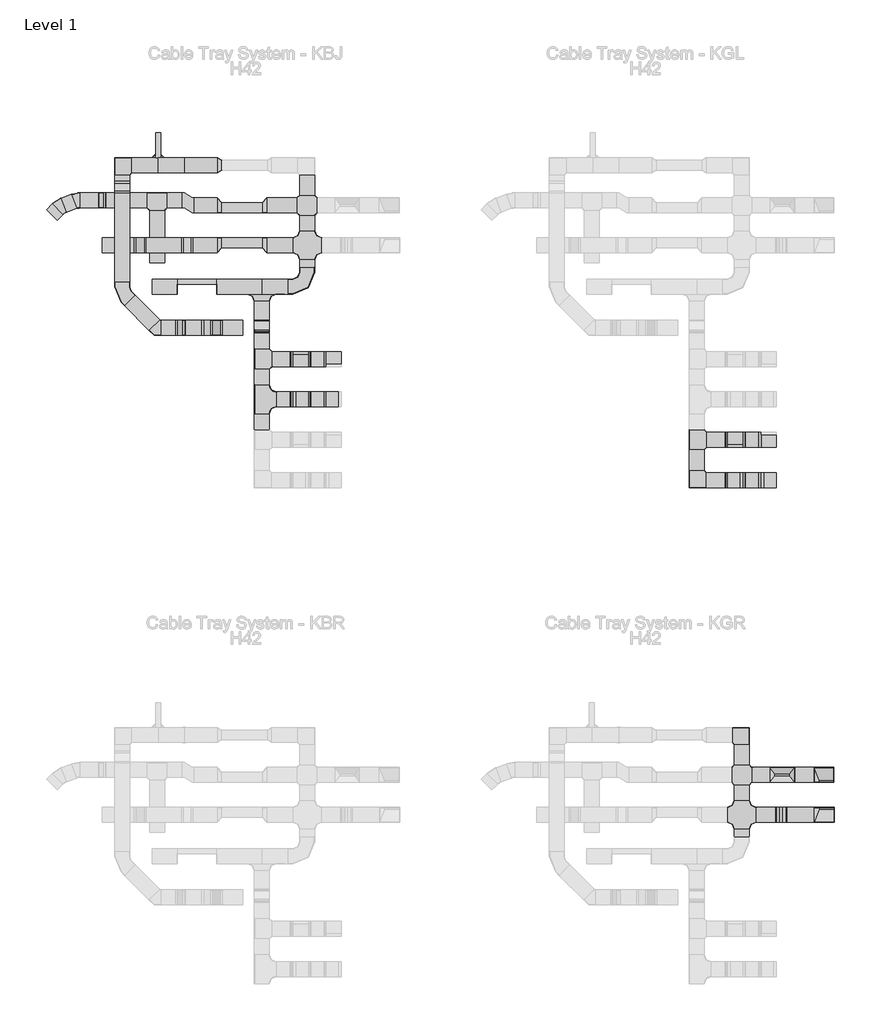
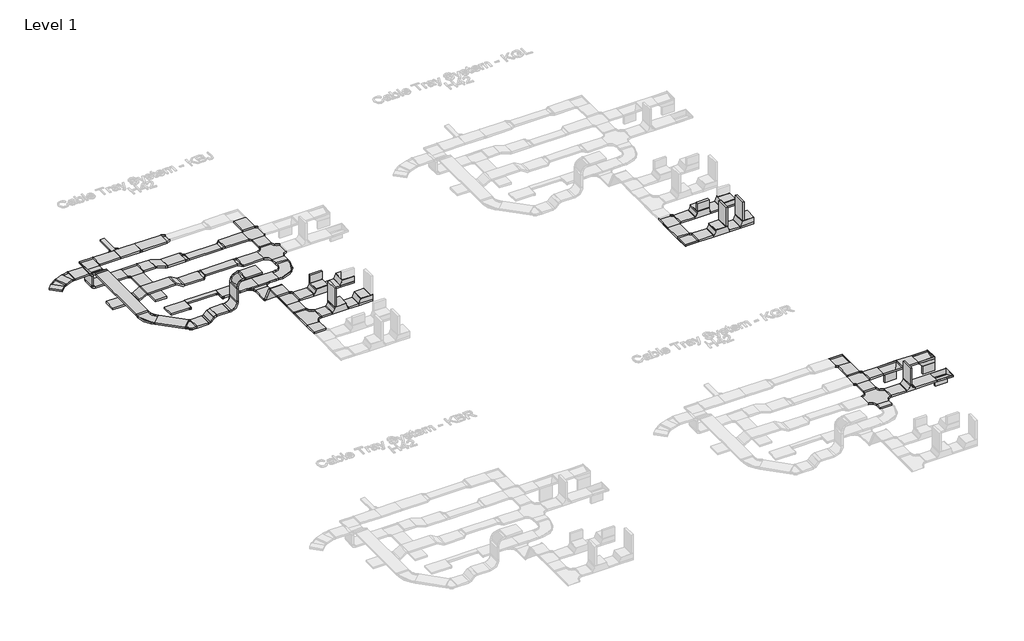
# One storey, part 6 of 32: 64 cable carrier segments, 51 cable carrier fittings.
"""IFC4 building model written with IfcOpenShell, lengths in millimetres."""

from ifc_helpers import new_model, si_unit, frame, origin, place, context, project, spatial, polyline, outline, extrude, transform, mapped, element, save
from components import cable_carrier_fitting_2f03b0e3, cable_carrier_fitting_e5c8e40d, cable_carrier_fitting_efa56db2, cable_carrier_fitting_2b67af39, cable_carrier_fitting_400b97e6, cable_carrier_fitting_736d034b, cable_carrier_fitting_94ef316f, cable_carrier_fitting_717dd42d, cable_carrier_fitting_b6ebce7b, cable_carrier_fitting_70c157f5, cable_carrier_fitting_f138ef00, cable_carrier_fitting_e93d4d17, cable_carrier_fitting_1724e2f5, cable_carrier_fitting_f62230c1, cable_carrier_fitting_ae8e9708, cable_carrier_fitting_2d1b2b1b, cable_carrier_fitting_6d558282, cable_carrier_fitting_b296faec, cable_carrier_fitting_47b1af77, cable_carrier_fitting_55953e98, cable_carrier_fitting_c1d9b0e5, cable_carrier_fitting_19ef2403, cable_carrier_fitting_0fee3a18, cable_carrier_fitting_93b13c26, cable_carrier_fitting_9011e538, cable_carrier_fitting_5d3ac796, cable_carrier_fitting_b8cc1d00, cable_carrier_fitting_0e05e12f, cable_carrier_fitting_aa4403b1, cable_carrier_fitting_df0feb0d, cable_carrier_fitting_3ff81d9b, cable_carrier_fitting_7d5806c9, cable_carrier_fitting_881c8fdb, cable_carrier_fitting_302010ec, cable_carrier_fitting_0ce080ce, rkj200_h42_828cf9d7, rkj200_h42_37d9c611

model = new_model("IFC4")

# Units and contexts
model_context = context("Model", 3, world=origin())
ifc_project = project(units=[si_unit("LENGTHUNIT", "METRE", prefix="MILLI")], contexts=[model_context])

# Site, building, storey
site = spatial("IfcSite", under=ifc_project)
building = spatial("IfcBuilding", under=site)
storey = spatial("IfcBuildingStorey", under=building, Name="Level 1", Elevation=0.0)

# Cable carrier fittings
placement = place(None, origin())
cable_carrier_fitting_shape = cable_carrier_fitting_2f03b0e3(model_context)
element("IfcCableCarrierFitting", 1, ObjectType="BAKS_Vertical tee symetrical : TRSNJ_H42", at=placement, inside=storey, context=model_context, shape_type="MappedRepresentation", body=[
    mapped(cable_carrier_fitting_shape, transform((-6858.1670538, 56380.8714214, 0.0), x_axis=(1.0, 0.0, 0.0), y_axis=(0.0, -1.0, 0.0), z_axis=(0.0, 0.0, -1.0))),
])
cable_carrier_fitting_2_shape = cable_carrier_fitting_e5c8e40d(model_context)
element("IfcCableCarrierFitting", 2, ObjectType="BAKS_SUB_Corner connector : LRJ_H42", at=placement, inside=storey, context=model_context, shape_type="MappedRepresentation", body=[
    mapped(cable_carrier_fitting_2_shape, transform((-19375.1670538, 69530.8714214, -21.0), x_axis=(-1.0, 0.0, 0.0), y_axis=(0.0, -1.0, 0.0), z_axis=(0.0, 0.0, 1.0))),
])
element("IfcCableCarrierFitting", 3, ObjectType="BAKS_SUB_Corner connector : LRJ_H42", at=placement, inside=storey, context=model_context, shape_type="MappedRepresentation", body=[
    mapped(cable_carrier_fitting_2_shape, transform((-19275.1670538, 69530.8714214, -21.0), x_axis=(0.0, 1.0, 0.0), y_axis=(-1.0, 0.0, 0.0), z_axis=(0.0, 0.0, 1.0))),
])
cable_carrier_fitting_3_shape = cable_carrier_fitting_efa56db2(model_context)
element("IfcCableCarrierFitting", 4, ObjectType="BAKS_Horizontal bypass : OPZNJ_H42", at=placement, inside=storey, context=model_context, shape_type="MappedRepresentation", body=[
    mapped(cable_carrier_fitting_3_shape, transform((-18722.1670538, 68580.8714214, 0.0), x_axis=(-1.0, 0.0, 0.0), y_axis=(0.0, 1.0, 0.0), z_axis=(0.0, 0.0, -1.0))),
])
cable_carrier_fitting_4_shape = cable_carrier_fitting_2b67af39(model_context)
element("IfcCableCarrierFitting", 5, ObjectType="BAKS_Vertical bypass : OPNNJ_H42", at=placement, inside=storey, context=model_context, shape_type="MappedRepresentation", body=[
    mapped(cable_carrier_fitting_4_shape, transform((-19686.6670538, 67780.8714214, 100.0), x_axis=(-1.0, 0.0, 0.0), y_axis=(0.0, -1.0, 0.0), z_axis=(0.0, 0.0, 1.0))),
])
cable_carrier_fitting_5_shape = cable_carrier_fitting_400b97e6(model_context)
element("IfcCableCarrierFitting", 6, ObjectType="BAKS_Vertical elbow left : KRLBJ_H42", at=placement, inside=storey, context=model_context, shape_type="MappedRepresentation", body=[
    mapped(cable_carrier_fitting_5_shape, transform((-6208.1670538, 57180.8714214, 0.0), x_axis=(1.0, 0.0, 0.0), y_axis=(0.0, 1.0, 0.0), z_axis=(0.0, 0.0, 1.0))),
])
cable_carrier_fitting_6_shape = cable_carrier_fitting_736d034b(model_context)
element("IfcCableCarrierFitting", 7, ObjectType="BAKS_Vertical tee lengthwise : TRBJ_H42", at=placement, inside=storey, context=model_context, shape_type="MappedRepresentation", body=[
    mapped(cable_carrier_fitting_6_shape, transform((-6838.1670538, 57180.8714214, 0.0), x_axis=(-1.0, 0.0, 0.0), y_axis=(0.0, -1.0, 0.0), z_axis=(0.0, 0.0, 1.0))),
])
cable_carrier_fitting_7_shape = cable_carrier_fitting_94ef316f(model_context)
element("IfcCableCarrierFitting", 8, ObjectType="BAKS_Reducer : RK(S/L/P)L_H42", at=placement, inside=storey, context=model_context, shape_type="MappedRepresentation", body=[
    mapped(cable_carrier_fitting_7_shape, transform((-18143.1670538, 69380.8714214, 0.0), x_axis=(1.0, 0.0, 0.0), y_axis=(0.0, 1.0, 0.0), z_axis=(0.0, 0.0, 1.0))),
])
cable_carrier_fitting_8_shape = cable_carrier_fitting_717dd42d(model_context)
element("IfcCableCarrierFitting", 9, ObjectType="BAKS_Horizontal bend : KKBL/KKMBL_H42", at=placement, inside=storey, context=model_context, shape_type="MappedRepresentation", body=[
    mapped(cable_carrier_fitting_8_shape, transform((-7643.1670538, 57980.8714214, 0.0), x_axis=(0.0, 1.0, 0.0), y_axis=(-1.0, 0.0, 0.0), z_axis=(0.0, 0.0, 1.0))),
])
element("IfcCableCarrierFitting", 10, ObjectType="BAKS_Horizontal bend : KKBL/KKMBL_H42", at=placement, inside=storey, context=model_context, shape_type="MappedRepresentation", body=[
    mapped(cable_carrier_fitting_8_shape, transform((-20043.1670538, 69380.8714214, 0.0), x_axis=(-1.0, 0.0, 0.0), y_axis=(0.0, -1.0, 0.0), z_axis=(0.0, 0.0, 1.0))),
])
element("IfcCableCarrierFitting", 11, ObjectType="BAKS_Horizontal bend : KKBL/KKMBL_H42", at=placement, inside=storey, context=model_context, shape_type="MappedRepresentation", body=[
    mapped(cable_carrier_fitting_8_shape, transform((-8546.1670538, 63082.0146558, 432.5277378), x_axis=(0.0, -1.0, 0.0), y_axis=(1.0, 0.0, 0.0), z_axis=(0.0, 0.0, 1.0))),
])
cable_carrier_fitting_9_shape = cable_carrier_fitting_b6ebce7b(model_context)
element("IfcCableCarrierFitting", 12, ObjectType="BAKS_Horizontal tee : TKL_H42", at=placement, inside=storey, context=model_context, shape_type="MappedRepresentation", body=[
    mapped(cable_carrier_fitting_9_shape, transform((-19343.6670538, 68680.8714214, 0.0), x_axis=(1.0, 0.0, 0.0), y_axis=(0.0, 1.0, 0.0), z_axis=(0.0, 0.0, 1.0))),
])
element("IfcCableCarrierFitting", 13, ObjectType="BAKS_Horizontal tee : TKL_H42", at=placement, inside=storey, context=model_context, shape_type="MappedRepresentation", body=[
    mapped(cable_carrier_fitting_9_shape, transform((-17246.1670538, 65503.8631068, 432.5277378), x_axis=(0.0, 1.0, 0.0), y_axis=(-1.0, 0.0, 0.0), z_axis=(0.0, 0.0, 1.0))),
])
element("IfcCableCarrierFitting", 14, ObjectType="BAKS_Horizontal tee : TKL_H42", at=placement, inside=storey, context=model_context, shape_type="MappedRepresentation", body=[
    mapped(cable_carrier_fitting_9_shape, transform((-8546.1670538, 63889.2974728, 432.5277378), x_axis=(0.0, 1.0, 0.0), y_axis=(-1.0, 0.0, 0.0), z_axis=(0.0, 0.0, 1.0))),
])
cable_carrier_fitting_10_shape = cable_carrier_fitting_70c157f5(model_context)
element("IfcCableCarrierFitting", 15, ObjectType="BAKS_Reducer : RK(S/L/P)L_H42", at=placement, inside=storey, context=model_context, shape_type="MappedRepresentation", body=[
    mapped(cable_carrier_fitting_10_shape, transform((-18143.1670538, 68580.8714214, 0.0), x_axis=(1.0, 0.0, 0.0), y_axis=(0.0, 1.0, 0.0), z_axis=(0.0, 0.0, 1.0))),
])
element("IfcCableCarrierFitting", 16, ObjectType="BAKS_Reducer : RK(S/L/P)L_H42", at=placement, inside=storey, context=model_context, shape_type="MappedRepresentation", body=[
    mapped(cable_carrier_fitting_10_shape, transform((-17143.1670538, 67780.8714214, 0.0), x_axis=(-1.0, 0.0, 0.0), y_axis=(0.0, -1.0, 0.0), z_axis=(0.0, 0.0, 1.0))),
])
cable_carrier_fitting_11_shape = cable_carrier_fitting_f138ef00(model_context)
element("IfcCableCarrierFitting", 17, ObjectType="BAKS_Reducer : RK(S/L/P)L_H42", at=placement, inside=storey, context=model_context, shape_type="MappedRepresentation", body=[
    mapped(cable_carrier_fitting_11_shape, transform((-17143.1670538, 68580.8714214, 0.0), x_axis=(-1.0, 0.0, 0.0), y_axis=(0.0, -1.0, 0.0), z_axis=(0.0, 0.0, 1.0))),
])
element("IfcCableCarrierFitting", 18, ObjectType="BAKS_Reducer : RK(S/L/P)L_H42", at=placement, inside=storey, context=model_context, shape_type="MappedRepresentation", body=[
    mapped(cable_carrier_fitting_11_shape, transform((-18143.1670538, 67780.8714214, 0.0), x_axis=(1.0, 0.0, 0.0), y_axis=(0.0, 1.0, 0.0), z_axis=(0.0, 0.0, 1.0))),
])
cable_carrier_fitting_12_shape = cable_carrier_fitting_e93d4d17(model_context)
element("IfcCableCarrierFitting", 19, ObjectType="BAKS_Plate connector : LPMU_H42", at=placement, inside=storey, context=model_context, shape_type="MappedRepresentation", body=[
    mapped(cable_carrier_fitting_12_shape, transform((-18803.1670538, 69380.8714214, 0.0), x_axis=(1.0, 0.0, 0.0), y_axis=(0.0, 1.0, 0.0), z_axis=(0.0, 0.0, 1.0))),
])
cable_carrier_fitting_13_shape = cable_carrier_fitting_1724e2f5(model_context)
element("IfcCableCarrierFitting", 20, ObjectType="BAKS_Vertical bypass : OPNNJ_H42", at=placement, inside=storey, context=model_context, shape_type="MappedRepresentation", body=[
    mapped(cable_carrier_fitting_13_shape, transform((-18743.6670538, 67780.8714214, 0.0), x_axis=(-1.0, 0.0, 0.0), y_axis=(0.0, -1.0, 0.0), z_axis=(0.0, 0.0, 1.0))),
])
element("IfcCableCarrierFitting", 21, ObjectType="BAKS_Vertical bypass : OPNNJ_H42", at=placement, inside=storey, context=model_context, shape_type="MappedRepresentation", body=[
    mapped(cable_carrier_fitting_13_shape, transform((-20043.1670538, 68939.3714214, 0.0), x_axis=(0.0, -1.0, 0.0), y_axis=(1.0, 0.0, 0.0), z_axis=(0.0, 0.0, 1.0))),
])
cable_carrier_fitting_14_shape = cable_carrier_fitting_f62230c1(model_context)
element("IfcCableCarrierFitting", 22, ObjectType="BAKS_Vertical bend LU : LUNJ/LUMNJ_H42", at=placement, inside=storey, context=model_context, shape_type="MappedRepresentation", body=[
    mapped(cable_carrier_fitting_14_shape, transform((-20443.6670538, 68680.8714214, 0.0), x_axis=(-1.0, 0.0, 0.0), y_axis=(0.0, 0.0, 1.0), z_axis=(0.0, 1.0, 0.0))),
])
element("IfcCableCarrierFitting", 23, ObjectType="BAKS_Vertical bend LU : LUNJ/LUMNJ_H42", at=placement, inside=storey, context=model_context, shape_type="MappedRepresentation", body=[
    mapped(cable_carrier_fitting_14_shape, transform((-20443.6670538, 68680.8714214, 400.0), x_axis=(0.0, 0.0, 1.0), y_axis=(-1.0, 0.0, 0.0), z_axis=(0.0, -1.0, 0.0))),
])
cable_carrier_fitting_15_shape = cable_carrier_fitting_ae8e9708(model_context)
element("IfcCableCarrierFitting", 24, ObjectType="BAKS_Horizontal bend : KKBL/KKMBL_H42", at=placement, inside=storey, context=model_context, shape_type="MappedRepresentation", body=[
    mapped(cable_carrier_fitting_15_shape, transform((-19343.6670538, 66131.3714214, 100.0), x_axis=(0.7071067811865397, -0.7071067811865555, 0.0), y_axis=(0.7071067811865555, 0.7071067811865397, 0.0), z_axis=(0.0, 0.0, 1.0))),
])
cable_carrier_fitting_16_shape = cable_carrier_fitting_2d1b2b1b(model_context)
element("IfcCableCarrierFitting", 25, ObjectType="BAKS_Vertical bend LU : LUNJ/LUMNJ_H42", at=placement, inside=storey, context=model_context, shape_type="MappedRepresentation", body=[
    mapped(cable_carrier_fitting_16_shape, transform((-18943.6670538, 66131.3714214, 100.0), x_axis=(1.0, 0.0, 0.0), y_axis=(0.0, 0.0, 1.0), z_axis=(0.0, -1.0, 0.0))),
])
element("IfcCableCarrierFitting", 26, ObjectType="BAKS_Vertical bend LU : LUNJ/LUMNJ_H42", at=placement, inside=storey, context=model_context, shape_type="MappedRepresentation", body=[
    mapped(cable_carrier_fitting_16_shape, transform((-18806.2659001, 66131.3714214, 237.4011537), x_axis=(0.7071067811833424, 0.0, 0.7071067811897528), y_axis=(0.7071067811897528, 0.0, -0.7071067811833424), z_axis=(0.0, 1.0, 0.0))),
])
cable_carrier_fitting_17_shape = cable_carrier_fitting_6d558282(model_context)
element("IfcCableCarrierFitting", 27, ObjectType="BAKS_Vertical bend adjustable : LLL/LLJ_H42", at=placement, inside=storey, context=model_context, shape_type="MappedRepresentation", body=[
    mapped(cable_carrier_fitting_17_shape, transform((-18246.2659001, 66131.3714214, 237.4011537), x_axis=(1.0, 0.0, 0.0), y_axis=(0.0, 0.0, 1.0), z_axis=(0.0, -1.0, 0.0))),
])
element("IfcCableCarrierFitting", 28, ObjectType="BAKS_Vertical bend adjustable : LLL/LLJ_H42", at=placement, inside=storey, context=model_context, shape_type="MappedRepresentation", body=[
    mapped(cable_carrier_fitting_17_shape, transform((-18246.2659001, 66131.3714214, 977.4011537), x_axis=(0.0, 0.0, 1.0), y_axis=(1.0, 0.0, 0.0), z_axis=(0.0, 1.0, 0.0))),
])
cable_carrier_fitting_18_shape = cable_carrier_fitting_b296faec(model_context)
element("IfcCableCarrierFitting", 29, ObjectType="BAKS_Horizontal addon tee : TKDJ_H42", at=placement, inside=storey, context=model_context, shape_type="MappedRepresentation", body=[
    mapped(cable_carrier_fitting_18_shape, transform((-17246.1670538, 66955.8714214, 0.0), x_axis=(1.0, 0.0, 0.0), y_axis=(0.0, 1.0, 0.0), z_axis=(0.0, 0.0, 1.0))),
])
cable_carrier_fitting_19_shape = cable_carrier_fitting_47b1af77(model_context)
element("IfcCableCarrierFitting", 30, ObjectType="BAKS_Articulated_connector : LGJ_H42", at=placement, inside=storey, context=model_context, shape_type="MappedRepresentation", body=[
    mapped(cable_carrier_fitting_19_shape, transform((-17246.1670538, 66258.7056523, 0.0), x_axis=(0.0, -1.0, 0.0), y_axis=(0.0, 0.0, 1.0), z_axis=(-1.0, 0.0, 0.0))),
])
element("IfcCableCarrierFitting", 31, ObjectType="BAKS_Articulated_connector : LGJ_H42", at=placement, inside=storey, context=model_context, shape_type="MappedRepresentation", body=[
    mapped(cable_carrier_fitting_19_shape, transform((-17246.1670538, 66057.0146558, 432.5277378), x_axis=(0.0, -0.42261826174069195, 0.9063077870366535), y_axis=(0.0, -0.9063077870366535, -0.42261826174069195), z_axis=(1.0, 0.0, 0.0))),
])
cable_carrier_fitting_20_shape = cable_carrier_fitting_55953e98(model_context)
element("IfcCableCarrierFitting", 32, ObjectType="BAKS_Horizontal bend radius : KKPJ/KKMPJ_H42", at=placement, inside=storey, context=model_context, shape_type="MappedRepresentation", body=[
    mapped(cable_carrier_fitting_20_shape, transform((-20043.1670538, 66830.8714214, 100.0), x_axis=(0.0, -1.0, 0.0), y_axis=(1.0, 0.0, 0.0), z_axis=(0.0, 0.0, 1.0))),
])
cable_carrier_fitting_21_shape = cable_carrier_fitting_c1d9b0e5(model_context)
element("IfcCableCarrierFitting", 33, ObjectType="BAKS_Horizontal bend radius : KKPJ/KKMPJ_H42", at=placement, inside=storey, context=model_context, shape_type="MappedRepresentation", body=[
    mapped(cable_carrier_fitting_21_shape, transform((-16343.1670538, 66955.8714214, 0.0), x_axis=(1.0, 0.0, 0.0), y_axis=(0.0, 1.0, 0.0), z_axis=(0.0, 0.0, 1.0))),
])
cable_carrier_fitting_22_shape = cable_carrier_fitting_19ef2403(model_context)
element("IfcCableCarrierFitting", 34, ObjectType="BAKS_Adjustable bend : KKRPJ_H42", at=placement, inside=storey, context=model_context, shape_type="MappedRepresentation", body=[
    mapped(cable_carrier_fitting_22_shape, transform((-21281.9563973, 68557.7441698, 400.0), x_axis=(-0.9396926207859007, -0.34202014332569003, 0.0), y_axis=(0.34202014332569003, -0.9396926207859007, 0.0), z_axis=(0.0, 0.0, 1.0))),
])
cable_carrier_fitting_23_shape = cable_carrier_fitting_0fee3a18(model_context)
element("IfcCableCarrierFitting", 35, ObjectType="BAKS_Adjustable bend : KKRPJ_H42", at=placement, inside=storey, context=model_context, shape_type="MappedRepresentation", body=[
    mapped(cable_carrier_fitting_23_shape, transform((-20943.6670538, 68680.8714214, 400.0), x_axis=(-1.0, 0.0, 0.0), y_axis=(0.0, -1.0, 0.0), z_axis=(0.0, 0.0, 1.0))),
])
cable_carrier_fitting_24_shape = cable_carrier_fitting_93b13c26(model_context)
element("IfcCableCarrierFitting", 36, ObjectType="BAKS_Horizontal tee radius : TKPJ_H42", at=placement, inside=storey, context=model_context, shape_type="MappedRepresentation", body=[
    mapped(cable_carrier_fitting_24_shape, transform((-17246.1670538, 64696.5802898, 432.5277378), x_axis=(0.0, 1.0, 0.0), y_axis=(-1.0, 0.0, 0.0), z_axis=(0.0, 0.0, 1.0))),
])
cable_carrier_fitting_25_shape = cable_carrier_fitting_9011e538(model_context)
element("IfcCableCarrierFitting", 37, ObjectType="BAKS_Horizontal cross over : CZKL_H42", at=placement, inside=storey, context=model_context, shape_type="MappedRepresentation", body=[
    mapped(cable_carrier_fitting_25_shape, transform((-7643.1670538, 57180.8714214, 0.0), x_axis=(0.0, -1.0, 0.0), y_axis=(1.0, 0.0, 0.0), z_axis=(0.0, 0.0, 1.0))),
])
element("IfcCableCarrierFitting", 38, ObjectType="BAKS_Horizontal cross over : CZKL_H42", at=placement, inside=storey, context=model_context, shape_type="MappedRepresentation", body=[
    mapped(cable_carrier_fitting_25_shape, transform((-16343.1670538, 68580.8714214, 0.0), x_axis=(0.0, -1.0, 0.0), y_axis=(1.0, 0.0, 0.0), z_axis=(0.0, 0.0, 1.0))),
])
cable_carrier_fitting_26_shape = cable_carrier_fitting_5d3ac796(model_context)
element("IfcCableCarrierFitting", 39, ObjectType="BAKS_Horizontal cross over radius : CZKPJ_H42", at=placement, inside=storey, context=model_context, shape_type="MappedRepresentation", body=[
    mapped(cable_carrier_fitting_26_shape, transform((-7643.1670538, 56380.8714214, 0.0), x_axis=(0.0, -1.0, 0.0), y_axis=(1.0, 0.0, 0.0), z_axis=(0.0, 0.0, 1.0))),
])
element("IfcCableCarrierFitting", 40, ObjectType="BAKS_Horizontal cross over radius : CZKPJ_H42", at=placement, inside=storey, context=model_context, shape_type="MappedRepresentation", body=[
    mapped(cable_carrier_fitting_26_shape, transform((-16343.1670538, 67780.8714214, 0.0), x_axis=(0.0, -1.0, 0.0), y_axis=(1.0, 0.0, 0.0), z_axis=(0.0, 0.0, 1.0))),
])
cable_carrier_fitting_27_shape = cable_carrier_fitting_b8cc1d00(model_context)
element("IfcCableCarrierFitting", 41, ObjectType="BAKS_Vertical elbow right : KRPJ_H42", at=placement, inside=storey, context=model_context, shape_type="MappedRepresentation", body=[
    mapped(cable_carrier_fitting_27_shape, transform((-6202.1670538, 56380.8714214, 0.0), x_axis=(1.0, 0.0, 0.0), y_axis=(0.0, 1.0, 0.0), z_axis=(0.0, 0.0, 1.0))),
])
cable_carrier_fitting_28_shape = cable_carrier_fitting_0e05e12f(model_context)
element("IfcCableCarrierFitting", 42, ObjectType="BAKS_Universal elbow : KRUMJ_H42", at=placement, inside=storey, context=model_context, shape_type="MappedRepresentation", body=[
    mapped(cable_carrier_fitting_28_shape, transform((-16006.1670538, 65503.8631068, 432.5277378), x_axis=(1.0, 0.0, 0.0), y_axis=(0.0, 1.0, 0.0), z_axis=(0.0, 0.0, 1.0))),
])
cable_carrier_fitting_29_shape = cable_carrier_fitting_aa4403b1(model_context)
element("IfcCableCarrierFitting", 43, ObjectType="BAKS_Universal elbow : KRUMJ_H42", at=placement, inside=storey, context=model_context, shape_type="MappedRepresentation", body=[
    mapped(cable_carrier_fitting_29_shape, transform((-7306.1670538, 63889.2974728, 432.5277378), x_axis=(1.0, 0.0, 0.0), y_axis=(0.0, 1.0, 0.0), z_axis=(0.0, 0.0, 1.0))),
])
cable_carrier_fitting_30_shape = cable_carrier_fitting_df0feb0d(model_context)
element("IfcCableCarrierFitting", 44, ObjectType="BAKS_Universal elbow : KRUMJ_H42", at=placement, inside=storey, context=model_context, shape_type="MappedRepresentation", body=[
    mapped(cable_carrier_fitting_30_shape, transform((-7306.1670538, 63082.0146558, 432.5277378), x_axis=(1.0, 0.0, 0.0), y_axis=(0.0, 1.0, 0.0), z_axis=(0.0, 0.0, 1.0))),
])
cable_carrier_fitting_31_shape = cable_carrier_fitting_3ff81d9b(model_context)
element("IfcCableCarrierFitting", 45, ObjectType="BAKS_Universal tee : TRUNJ_H42", at=placement, inside=storey, context=model_context, shape_type="MappedRepresentation", body=[
    mapped(cable_carrier_fitting_31_shape, transform((-16473.5199976, 65503.8631068, 432.5277378), x_axis=(-1.0, 0.0, 0.0), y_axis=(0.0, -1.0, 0.0), z_axis=(0.0, 0.0, 1.0))),
])
cable_carrier_fitting_32_shape = cable_carrier_fitting_7d5806c9(model_context)
element("IfcCableCarrierFitting", 46, ObjectType="BAKS_Universal tee : TRUNJ_H42", at=placement, inside=storey, context=model_context, shape_type="MappedRepresentation", body=[
    mapped(cable_carrier_fitting_32_shape, transform((-7773.5199976, 63889.2974728, 432.5277378), x_axis=(-1.0, 0.0, 0.0), y_axis=(0.0, -1.0, 0.0), z_axis=(0.0, 0.0, 1.0))),
])
cable_carrier_fitting_33_shape = cable_carrier_fitting_881c8fdb(model_context)
element("IfcCableCarrierFitting", 47, ObjectType="BAKS_Universal elbow : KRUMJ_H42", at=placement, inside=storey, context=model_context, shape_type="MappedRepresentation", body=[
    mapped(cable_carrier_fitting_33_shape, transform((-16006.1670538, 64696.5802898, 432.5277378), x_axis=(1.0, 0.0, 0.0), y_axis=(0.0, 1.0, 0.0), z_axis=(0.0, 0.0, 1.0))),
])
cable_carrier_fitting_34_shape = cable_carrier_fitting_302010ec(model_context)
element("IfcCableCarrierFitting", 48, ObjectType="BAKS_Universal tee : TRUNJ_H42", at=placement, inside=storey, context=model_context, shape_type="MappedRepresentation", body=[
    mapped(cable_carrier_fitting_34_shape, transform((-16473.5199976, 64696.5802898, 432.5277378), x_axis=(-1.0, 0.0, 0.0), y_axis=(0.0, -1.0, 0.0), z_axis=(0.0, 0.0, 1.0))),
])
cable_carrier_fitting_35_shape = cable_carrier_fitting_0ce080ce(model_context)
element("IfcCableCarrierFitting", 49, ObjectType="BAKS_Universal tee : TRUNJ_H42", at=placement, inside=storey, context=model_context, shape_type="MappedRepresentation", body=[
    mapped(cable_carrier_fitting_35_shape, transform((-7773.5199976, 63082.0146558, 432.5277378), x_axis=(-1.0, 0.0, 0.0), y_axis=(0.0, -1.0, 0.0), z_axis=(0.0, 0.0, 1.0))),
])
rkj200_h42_shape = rkj200_h42_828cf9d7(model_context)
element("IfcCableCarrierFitting", 50, ObjectType="BAKS_Angle reducer : RKJ200_H42", at=placement, inside=storey, context=model_context, shape_type="MappedRepresentation", body=[
    mapped(rkj200_h42_shape, transform((-18153.1670538, 66955.8714214, 0.0), x_axis=(-1.0, 0.0, 0.0), y_axis=(0.0, -1.0, 0.0), z_axis=(0.0, 0.0, 1.0))),
])
rkj200_h42_2_shape = rkj200_h42_37d9c611(model_context)
element("IfcCableCarrierFitting", 51, ObjectType="BAKS_Angle reducer : RKJ200_H42", at=placement, inside=storey, context=model_context, shape_type="MappedRepresentation", body=[
    mapped(rkj200_h42_2_shape, transform((-18943.1670538, 66955.8714214, 0.0), x_axis=(1.0, 0.0, 0.0), y_axis=(0.0, 1.0, 0.0), z_axis=(0.0, 0.0, 1.0))),
])

# Cable carrier segments
element("IfcCableCarrierSegment", 52, ObjectType="BAKS - Cable tray H42 (KGR)", at=placement, inside=storey, context=model_context, shape_type="SweptSolid", body=[
    extrude(outline(polyline([(-7793.1670538, 57784.8714214), (-7493.1670538, 57784.8714214), (-7493.1670538, 57385.8714214), (-7793.1670538, 57385.8714214), (-7793.1670538, 57784.8714214)])), frame((0.0, 0.0, -21.0), z_axis=(0.0, 0.0, 1.0), x_axis=(1.0, 0.0, 0.0)), (0.0, 0.0, 1.0), 42.0),
])
element("IfcCableCarrierSegment", 53, ObjectType="BAKS - Cable tray H42 (KGR)", at=placement, inside=storey, context=model_context, shape_type="SweptSolid", body=[
    extrude(outline(polyline([(-7793.1670538, 56975.8714214), (-7493.1670538, 56975.8714214), (-7493.1670538, 56671.8714214), (-7793.1670538, 56671.8714214), (-7793.1670538, 56975.8714214)])), frame((0.0, 0.0, -21.0), z_axis=(0.0, 0.0, 1.0), x_axis=(1.0, 0.0, 0.0)), (0.0, 0.0, 1.0), 42.0),
])
element("IfcCableCarrierSegment", 54, ObjectType="BAKS - Cable tray H42 (KGR)", at=placement, inside=storey, context=model_context, shape_type="SweptSolid", body=[
    extrude(outline(polyline([(-7493.1670538, 55945.8714214), (-7793.1670538, 55945.8714214), (-7793.1670538, 56089.8714214), (-7493.1670538, 56089.8714214), (-7493.1670538, 55945.8714214)])), frame((0.0, 0.0, -21.0), z_axis=(0.0, 0.0, 1.0), x_axis=(1.0, 0.0, 0.0)), (0.0, 0.0, 1.0), 42.0),
])
element("IfcCableCarrierSegment", 55, ObjectType="BAKS - Cable tray H42 (KGR)", at=placement, inside=storey, context=model_context, shape_type="SweptSolid", body=[
    extrude(outline(polyline([(-7438.1670538, 57030.8714214), (-7438.1670538, 57330.8714214), (-7088.1670538, 57330.8714214), (-7088.1670538, 57030.8714214), (-7438.1670538, 57030.8714214)])), frame((0.0, 0.0, -21.0), z_axis=(0.0, 0.0, 1.0), x_axis=(1.0, 0.0, 0.0)), (0.0, 0.0, 1.0), 42.0),
])
element("IfcCableCarrierSegment", 56, ObjectType="BAKS - Cable tray H42 (KGR)", at=placement, inside=storey, context=model_context, shape_type="SweptSolid", body=[
    extrude(outline(polyline([(-7352.1670538, 56230.8714214), (-7352.1670538, 56530.8714214), (-6974.1670538, 56530.8714214), (-6974.1670538, 56230.8714214), (-7352.1670538, 56230.8714214)])), frame((0.0, 0.0, -21.0), z_axis=(0.0, 0.0, 1.0), x_axis=(1.0, 0.0, 0.0)), (0.0, 0.0, 1.0), 42.0),
])
element("IfcCableCarrierSegment", 57, ObjectType="BAKS - Cable tray H42 (KGR)", at=placement, inside=storey, context=model_context, shape_type="SweptSolid", body=[
    extrude(outline(polyline([(-6742.1670538, 56230.8714214), (-6742.1670538, 56530.8714214), (-6202.1670538, 56530.8714214), (-6202.1670538, 56230.8714214), (-6742.1670538, 56230.8714214)])), frame((0.0, 0.0, -21.0), z_axis=(0.0, 0.0, 1.0), x_axis=(1.0, 0.0, 0.0)), (0.0, 0.0, 1.0), 42.0),
])
element("IfcCableCarrierSegment", 58, ObjectType="BAKS - Cable tray H42 (KGR)", at=placement, inside=storey, context=model_context, shape_type="SweptSolid", body=[
    extrude(outline(polyline([(-6837.1670538, 56230.8714214), (-6879.1670538, 56230.8714214), (-6879.1670538, 56530.8714214), (-6837.1670538, 56530.8714214), (-6837.1670538, 56230.8714214)])), frame((0.0, 0.0, 136.0), z_axis=(0.0, 0.0, 1.0), x_axis=(1.0, 0.0, 0.0)), (0.0, 0.0, 1.0), 449.0),
])
element("IfcCableCarrierSegment", 59, ObjectType="BAKS - Cable tray H42 (KGR)", at=placement, inside=storey, context=model_context, shape_type="SweptSolid", body=[
    extrude(outline(polyline([(-6588.1670538, 57030.8714214), (-6588.1670538, 57330.8714214), (-6208.1670538, 57330.8714214), (-6208.1670538, 57030.8714214), (-6588.1670538, 57030.8714214)])), frame((0.0, 0.0, -21.0), z_axis=(0.0, 0.0, 1.0), x_axis=(1.0, 0.0, 0.0)), (0.0, 0.0, 1.0), 42.0),
])
element("IfcCableCarrierSegment", 60, ObjectType="BAKS - Cable tray H42 (KBJ)", at=placement, inside=storey, context=model_context, shape_type="SweptSolid", body=[
    extrude(outline(polyline([(-18802.1670538, 69230.8714214), (-18802.1670538, 69530.8714214), (-18143.1670538, 69530.8714214), (-18143.1670538, 69230.8714214), (-18802.1670538, 69230.8714214)])), frame((0.0, 0.0, -21.0), z_axis=(0.0, 0.0, 1.0), x_axis=(1.0, 0.0, 0.0)), (0.0, 0.0, 1.0), 42.0),
])
element("IfcCableCarrierSegment", 61, ObjectType="BAKS - Cable tray H42 (KBJ)", at=placement, inside=storey, context=model_context, shape_type="SweptSolid", body=[
    extrude(outline(polyline([(-16493.1670538, 69184.8714214), (-16193.1670538, 69184.8714214), (-16193.1670538, 68785.8714214), (-16493.1670538, 68785.8714214), (-16493.1670538, 69184.8714214)])), frame((0.0, 0.0, -21.0), z_axis=(0.0, 0.0, 1.0), x_axis=(1.0, 0.0, 0.0)), (0.0, 0.0, 1.0), 42.0),
])
element("IfcCableCarrierSegment", 62, ObjectType="BAKS - Cable tray H42 (KBJ)", at=placement, inside=storey, context=model_context, shape_type="SweptSolid", body=[
    extrude(outline(polyline([(-16493.1670538, 68375.8714214), (-16193.1670538, 68375.8714214), (-16193.1670538, 68071.8714214), (-16493.1670538, 68071.8714214), (-16493.1670538, 68375.8714214)])), frame((0.0, 0.0, -21.0), z_axis=(0.0, 0.0, 1.0), x_axis=(1.0, 0.0, 0.0)), (0.0, 0.0, 1.0), 42.0),
])
element("IfcCableCarrierSegment", 63, ObjectType="BAKS - Cable tray H42 (KBJ)", at=placement, inside=storey, context=model_context, shape_type="SweptSolid", body=[
    extrude(outline(polyline([(-17238.1670538, 68630.8714214), (-17238.1670538, 68430.8714214), (-18048.1670538, 68430.8714214), (-18048.1670538, 68630.8714214), (-17238.1670538, 68630.8714214)])), frame((0.0, 0.0, -21.0), z_axis=(0.0, 0.0, 1.0), x_axis=(1.0, 0.0, 0.0)), (0.0, 0.0, 1.0), 42.0),
])
element("IfcCableCarrierSegment", 64, ObjectType="BAKS - Cable tray H42 (KBJ)", at=placement, inside=storey, context=model_context, shape_type="SweptSolid", body=[
    extrude(outline(polyline([(-18600.6670538, 68430.8714214), (-18600.6670538, 68730.8714214), (-18143.1670538, 68730.8714214), (-18143.1670538, 68430.8714214), (-18600.6670538, 68430.8714214)])), frame((0.0, 0.0, -21.0), z_axis=(0.0, 0.0, 1.0), x_axis=(1.0, 0.0, 0.0)), (0.0, 0.0, 1.0), 42.0),
])
element("IfcCableCarrierSegment", 65, ObjectType="BAKS - Cable tray H42 (KBJ)", at=placement, inside=storey, context=model_context, shape_type="SweptSolid", body=[
    extrude(outline(polyline([(-16548.1670538, 68730.8714214), (-16548.1670538, 68430.8714214), (-17143.1670538, 68430.8714214), (-17143.1670538, 68730.8714214), (-16548.1670538, 68730.8714214)])), frame((0.0, 0.0, -21.0), z_axis=(0.0, 0.0, 1.0), x_axis=(1.0, 0.0, 0.0)), (0.0, 0.0, 1.0), 42.0),
])
element("IfcCableCarrierSegment", 66, ObjectType="BAKS - Cable tray H42 (KBJ)", at=placement, inside=storey, context=model_context, shape_type="SweptSolid", body=[
    extrude(outline(polyline([(-17238.1670538, 67930.8714214), (-17238.1670538, 67730.8714214), (-18048.1670538, 67730.8714214), (-18048.1670538, 67930.8714214), (-17238.1670538, 67930.8714214)])), frame((0.0, 0.0, -21.0), z_axis=(0.0, 0.0, 1.0), x_axis=(1.0, 0.0, 0.0)), (0.0, 0.0, 1.0), 42.0),
])
element("IfcCableCarrierSegment", 67, ObjectType="BAKS - Cable tray H42 (KBJ)", at=placement, inside=storey, context=model_context, shape_type="SweptSolid", body=[
    extrude(outline(polyline([(-18622.1670538, 67630.8714214), (-18622.1670538, 67930.8714214), (-18143.1670538, 67930.8714214), (-18143.1670538, 67630.8714214), (-18622.1670538, 67630.8714214)])), frame((0.0, 0.0, -21.0), z_axis=(0.0, 0.0, 1.0), x_axis=(1.0, 0.0, 0.0)), (0.0, 0.0, 1.0), 42.0),
])
element("IfcCableCarrierSegment", 68, ObjectType="BAKS - Cable tray H42 (KBJ)", at=placement, inside=storey, context=model_context, shape_type="SweptSolid", body=[
    extrude(outline(polyline([(-16634.1670538, 67930.8714214), (-16634.1670538, 67630.8714214), (-17143.1670538, 67630.8714214), (-17143.1670538, 67930.8714214), (-16634.1670538, 67930.8714214)])), frame((0.0, 0.0, -21.0), z_axis=(0.0, 0.0, 1.0), x_axis=(1.0, 0.0, 0.0)), (0.0, 0.0, 1.0), 42.0),
])
element("IfcCableCarrierSegment", 69, ObjectType="BAKS - Cable tray H42 (KBJ)", at=placement, inside=storey, context=model_context, shape_type="SweptSolid", body=[
    extrude(outline(polyline([(-19548.6670538, 68830.8714214), (-19548.6670538, 68530.8714214), (-20367.6670538, 68530.8714214), (-20367.6670538, 68830.8714214), (-19548.6670538, 68830.8714214)])), frame((0.0, 0.0, -21.0), z_axis=(0.0, 0.0, 1.0), x_axis=(1.0, 0.0, 0.0)), (0.0, 0.0, 1.0), 42.0),
])
element("IfcCableCarrierSegment", 70, ObjectType="BAKS - Cable tray H42 (KBJ)", at=placement, inside=storey, context=model_context, shape_type="SweptSolid", body=[
    extrude(outline(polyline([(-18865.1670538, 67930.8714214), (-18865.1670538, 67630.8714214), (-19565.1670538, 67630.8714214), (-19565.1670538, 67930.8714214), (-18865.1670538, 67930.8714214)])), frame((0.0, 0.0, 79.0), z_axis=(0.0, 0.0, 1.0), x_axis=(1.0, 0.0, 0.0)), (0.0, 0.0, 1.0), 42.0),
])
element("IfcCableCarrierSegment", 71, ObjectType="BAKS - Cable tray H42 (KBJ)", at=placement, inside=storey, context=model_context, shape_type="SweptSolid", body=[
    extrude(outline(polyline([(-20193.1670538, 69184.8714214), (-19893.1670538, 69184.8714214), (-19893.1670538, 69060.8714214), (-20193.1670538, 69060.8714214), (-20193.1670538, 69184.8714214)])), frame((0.0, 0.0, -21.0), z_axis=(0.0, 0.0, 1.0), x_axis=(1.0, 0.0, 0.0)), (0.0, 0.0, 1.0), 42.0),
])
element("IfcCableCarrierSegment", 72, ObjectType="BAKS - Cable tray H42 (KBJ)", at=placement, inside=storey, context=model_context, shape_type="SweptSolid", body=[
    extrude(outline(polyline([(-19493.6670538, 68475.8714214), (-19193.6670538, 68475.8714214), (-19193.6670538, 67430.8714214), (-19493.6670538, 67430.8714214), (-19493.6670538, 68475.8714214)])), frame((0.0, 0.0, -21.0), z_axis=(0.0, 0.0, 1.0), x_axis=(1.0, 0.0, 0.0)), (0.0, 0.0, 1.0), 42.0),
])
element("IfcCableCarrierSegment", 73, ObjectType="BAKS - Cable tray H42 (KBJ)", at=placement, inside=storey, context=model_context, shape_type="SweptSolid", body=[
    extrude(outline(polyline([(-18843.6670538, 68830.8714214), (-18843.6670538, 68530.8714214), (-19138.6670538, 68530.8714214), (-19138.6670538, 68830.8714214), (-18843.6670538, 68830.8714214)])), frame((0.0, 0.0, -21.0), z_axis=(0.0, 0.0, 1.0), x_axis=(1.0, 0.0, 0.0)), (0.0, 0.0, 1.0), 42.0),
])
element("IfcCableCarrierSegment", 74, ObjectType="BAKS - Cable tray H42 (KBJ)", at=placement, inside=storey, context=model_context, shape_type="SweptSolid", body=[
    extrude(outline(polyline([(-19808.1670538, 67930.8714214), (-19808.1670538, 67630.8714214), (-20443.6670538, 67630.8714214), (-20443.6670538, 67930.8714214), (-19808.1670538, 67930.8714214)])), frame((0.0, 0.0, -21.0), z_axis=(0.0, 0.0, 1.0), x_axis=(1.0, 0.0, 0.0)), (0.0, 0.0, 1.0), 42.0),
])
element("IfcCableCarrierSegment", 75, ObjectType="BAKS - Cable tray H42 (KBJ)", at=placement, inside=storey, context=model_context, shape_type="SweptSolid", body=[
    extrude(outline(polyline([(-20877.5322294, 68530.8714214), (-20877.5322294, 68830.8714214), (-20519.6670538, 68830.8714214), (-20519.6670538, 68530.8714214), (-20877.5322294, 68530.8714214)])), frame((0.0, 0.0, 379.0), z_axis=(0.0, 0.0, 1.0), x_axis=(1.0, 0.0, 0.0)), (0.0, 0.0, 1.0), 42.0),
])
element("IfcCableCarrierSegment", 76, ObjectType="BAKS - Cable tray H42 (KBJ)", at=placement, inside=storey, context=model_context, shape_type="SweptSolid", body=[
    extrude(outline(polyline([(-20464.6670538, 68830.8714214), (-20422.6670538, 68830.8714214), (-20422.6670538, 68530.8714214), (-20464.6670538, 68530.8714214), (-20464.6670538, 68830.8714214)])), frame((0.0, 0.0, 76.0), z_axis=(0.0, 0.0, 1.0), x_axis=(1.0, 0.0, 0.0)), (0.0, 0.0, 1.0), 248.0),
])
element("IfcCableCarrierSegment", 77, ObjectType="BAKS - Cable tray H42 (KBJ)", at=placement, inside=storey, context=model_context, shape_type="SweptSolid", body=[
    extrude(outline(polyline([(-19893.1670538, 67050.9933545), (-20193.1670538, 67050.9933545), (-20193.1670538, 68817.8714214), (-19893.1670538, 68817.8714214), (-19893.1670538, 67050.9933545)])), frame((0.0, 0.0, 79.0), z_axis=(0.0, 0.0, 1.0), x_axis=(1.0, 0.0, 0.0)), (0.0, 0.0, 1.0), 42.0),
])
element("IfcCableCarrierSegment", 78, ObjectType="BAKS - Cable tray H42 (KBJ)", at=placement, inside=storey, context=model_context, shape_type="SweptSolid", body=[
    extrude(outline(polyline([(-19993.5833594, 66569.1556926), (-19781.451325, 66781.287727), (-19295.422321, 66295.258723), (-19507.5543554, 66083.1266887), (-19993.5833594, 66569.1556926)])), frame((0.0, 0.0, 79.0), z_axis=(0.0, 0.0, 1.0), x_axis=(1.0, 0.0, 0.0)), (0.0, 0.0, 1.0), 42.0),
])
element("IfcCableCarrierSegment", 79, ObjectType="BAKS - Cable tray H42 (KBJ)", at=placement, inside=storey, context=model_context, shape_type="SweptSolid", body=[
    extrude(outline(polyline([(-19261.8954091, 65981.3714214), (-19261.8954091, 66281.3714214), (-18978.0762167, 66281.3714214), (-18978.0762167, 65981.3714214), (-19261.8954091, 65981.3714214)])), frame((0.0, 0.0, 79.0), z_axis=(0.0, 0.0, 1.0), x_axis=(1.0, 0.0, 0.0)), (0.0, 0.0, 1.0), 42.0),
])
element("IfcCableCarrierSegment", 80, ObjectType="BAKS - Cable tray H42 (KBJ)", at=placement, inside=storey, context=model_context, shape_type="SweptSolid", body=[
    extrude(outline(polyline([(21.0, 1.4628667), (-21.0, 1.4628667), (-21.0, 301.4628667), (21.0, 301.4628667), (21.0, 1.4628667)])), frame((-18919.3361013, 65979.9085547, 124.3309524), z_axis=(0.7071067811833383, 0.0, 0.7071067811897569), x_axis=(0.7071067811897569, 0.0, -0.7071067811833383)), (0.0, 0.0, 1.0), 125.4962492),
])
element("IfcCableCarrierSegment", 81, ObjectType="BAKS - Cable tray H42 (KBJ)", at=placement, inside=storey, context=model_context, shape_type="SweptSolid", body=[
    extrude(outline(polyline([(-18771.8567371, 65981.3714214), (-18771.8567371, 66281.3714214), (-18457.2659001, 66281.3714214), (-18457.2659001, 65981.3714214), (-18771.8567371, 65981.3714214)])), frame((0.0, 0.0, 216.4011537), z_axis=(0.0, 0.0, 1.0), x_axis=(1.0, 0.0, 0.0)), (0.0, 0.0, 1.0), 42.0),
])
element("IfcCableCarrierSegment", 82, ObjectType="BAKS - Cable tray H42 (KBJ)", at=placement, inside=storey, context=model_context, shape_type="SweptSolid", body=[
    extrude(outline(polyline([(-18225.2659001, 65981.3714214), (-18267.2659001, 65981.3714214), (-18267.2659001, 66281.3714214), (-18225.2659001, 66281.3714214), (-18225.2659001, 65981.3714214)])), frame((0.0, 0.0, 448.4011537), z_axis=(0.0, 0.0, 1.0), x_axis=(1.0, 0.0, 0.0)), (0.0, 0.0, 1.0), 318.0),
])
element("IfcCableCarrierSegment", 83, ObjectType="BAKS - Cable tray H42 (KBJ)", at=placement, inside=storey, context=model_context, shape_type="SweptSolid", body=[
    extrude(outline(polyline([(-18035.2659001, 65981.3714214), (-18035.2659001, 66281.3714214), (-17626.2659001, 66281.3714214), (-17626.2659001, 65981.3714214), (-18035.2659001, 65981.3714214)])), frame((0.0, 0.0, 956.4011537), z_axis=(0.0, 0.0, 1.0), x_axis=(1.0, 0.0, 0.0)), (0.0, 0.0, 1.0), 42.0),
])
element("IfcCableCarrierSegment", 84, ObjectType="BAKS - Cable tray H42 (KBJ)", at=placement, inside=storey, context=model_context, shape_type="SweptSolid", body=[
    extrude(outline(polyline([(-17246.7091451, 67105.8714214), (-17246.7091451, 66805.8714214), (-18153.1670538, 66805.8714214), (-18153.1670538, 67105.8714214), (-17246.7091451, 67105.8714214)])), frame((0.0, 0.0, -21.0), z_axis=(0.0, 0.0, 1.0), x_axis=(1.0, 0.0, 0.0)), (0.0, 0.0, 1.0), 42.0),
])
element("IfcCableCarrierSegment", 85, ObjectType="BAKS - Cable tray H42 (KBJ)", at=placement, inside=storey, context=model_context, shape_type="SweptSolid", body=[
    extrude(outline(polyline([(-18938.1670538, 67005.8714214), (-18938.1670538, 67105.8714214), (-18158.1670538, 67105.8714214), (-18158.1670538, 67005.8714214), (-18938.1670538, 67005.8714214)])), frame((0.0, 0.0, -21.0), z_axis=(0.0, 0.0, 1.0), x_axis=(1.0, 0.0, 0.0)), (0.0, 0.0, 1.0), 42.0),
])
element("IfcCableCarrierSegment", 86, ObjectType="BAKS - Cable tray H42 (KBJ)", at=placement, inside=storey, context=model_context, shape_type="SweptSolid", body=[
    extrude(outline(polyline([(-16193.1670538, 67345.8714214), (-16493.1670538, 67345.8714214), (-16493.1670538, 67489.8714214), (-16193.1670538, 67489.8714214), (-16193.1670538, 67345.8714214)])), frame((0.0, 0.0, -21.0), z_axis=(0.0, 0.0, 1.0), x_axis=(1.0, 0.0, 0.0)), (0.0, 0.0, 1.0), 42.0),
])
element("IfcCableCarrierSegment", 87, ObjectType="BAKS - Cable tray H42 (KBJ)", at=placement, inside=storey, context=model_context, shape_type="SweptSolid", body=[
    extrude(outline(polyline([(-19443.1670538, 66805.8714214), (-19443.1670538, 67105.8714214), (-18943.1670538, 67105.8714214), (-18943.1670538, 66805.8714214), (-19443.1670538, 66805.8714214)])), frame((0.0, 0.0, -21.0), z_axis=(0.0, 0.0, 1.0), x_axis=(1.0, 0.0, 0.0)), (0.0, 0.0, 1.0), 42.0),
])
element("IfcCableCarrierSegment", 88, ObjectType="BAKS - Cable tray H42 (KBJ)", at=placement, inside=storey, context=model_context, shape_type="SweptSolid", body=[
    extrude(outline(polyline([(-16733.1670538, 67105.8714214), (-16733.1670538, 66805.8714214), (-17245.6249624, 66805.8714214), (-17245.6249624, 67105.8714214), (-16733.1670538, 67105.8714214)])), frame((0.0, 0.0, -21.0), z_axis=(0.0, 0.0, 1.0), x_axis=(1.0, 0.0, 0.0)), (0.0, 0.0, 1.0), 42.0),
])
element("IfcCableCarrierSegment", 89, ObjectType="BAKS - Cable tray H42 (KBJ)", at=placement, inside=storey, context=model_context, shape_type="SweptSolid", body=[
    extrude(outline(polyline([(-17396.1670538, 66659.8714214), (-17096.1670538, 66659.8714214), (-17096.1670538, 66294.8255329), (-17396.1670538, 66294.8255329), (-17396.1670538, 66659.8714214)])), frame((0.0, 0.0, -21.0), z_axis=(0.0, 0.0, 1.0), x_axis=(1.0, 0.0, 0.0)), (0.0, 0.0, 1.0), 42.0),
])
element("IfcCableCarrierSegment", 90, ObjectType="BAKS - Cable tray H42 (KBJ)", at=placement, inside=storey, context=model_context, shape_type="SweptSolid", body=[
    extrude(outline(polyline([(-150.0, 130.4628667), (-150.0, 172.4628667), (150.0, 172.4628667), (150.0, 130.4628667), (-150.0, 130.4628667)])), frame((-17246.1670538, 66106.1687555, -31.2752443), z_axis=(0.0, -0.42261826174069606, 0.9063077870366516), x_axis=(1.0, 0.0, 0.0)), (0.0, 0.0, 1.0), 405.0017938),
])
element("IfcCableCarrierSegment", 91, ObjectType="BAKS - Cable tray H42 (KBJ)", at=placement, inside=storey, context=model_context, shape_type="SweptSolid", body=[
    extrude(outline(polyline([(-21057.1164817, 68799.2058724), (-20954.5104387, 68517.2980862), (-21156.1437833, 68443.9095505), (-21258.7498263, 68725.8173368), (-21057.1164817, 68799.2058724)])), frame((0.0, 0.0, 379.0), z_axis=(0.0, 0.0, 1.0), x_axis=(1.0, 0.0, 0.0)), (0.0, 0.0, 1.0), 42.0),
])
element("IfcCableCarrierSegment", 92, ObjectType="BAKS - Cable tray H42 (KBJ)", at=placement, inside=storey, context=model_context, shape_type="SweptSolid", body=[
    extrude(outline(polyline([(-21444.0899379, 68607.7426635), (-21231.9579036, 68395.6106291), (-21344.3432656, 68283.2252671), (-21556.4753, 68495.3573015), (-21444.0899379, 68607.7426635)])), frame((0.0, 0.0, 379.0), z_axis=(0.0, 0.0, 1.0), x_axis=(1.0, 0.0, 0.0)), (0.0, 0.0, 1.0), 42.0),
])
element("IfcCableCarrierSegment", 93, ObjectType="BAKS - Cable tray H42 (KBJ)", at=placement, inside=storey, context=model_context, shape_type="SweptSolid", body=[
    extrude(outline(polyline([(-19324.6670538, 69230.8714214), (-19324.6670538, 69530.8714214), (-18803.1670538, 69530.8714214), (-18803.1670538, 69230.8714214), (-19324.6670538, 69230.8714214)])), frame((0.0, 0.0, -21.0), z_axis=(0.0, 0.0, 1.0), x_axis=(1.0, 0.0, 0.0)), (0.0, 0.0, 1.0), 42.0),
])
element("IfcCableCarrierSegment", 94, ObjectType="BAKS - Cable tray H42 (KBJ)", at=placement, inside=storey, context=model_context, shape_type="SweptSolid", body=[
    extrude(outline(polyline([(-19275.1670538, 69530.8714214), (-19375.1670538, 69530.8714214), (-19375.1670538, 70030.8714214), (-19275.1670538, 70030.8714214), (-19275.1670538, 69530.8714214)])), frame((0.0, 0.0, -21.0), z_axis=(0.0, 0.0, 1.0), x_axis=(1.0, 0.0, 0.0)), (0.0, 0.0, 1.0), 42.0),
])
element("IfcCableCarrierSegment", 95, ObjectType="BAKS - Cable tray H42 (KBJ)", at=placement, inside=storey, context=model_context, shape_type="SweptSolid", body=[
    extrude(outline(polyline([(-19847.1670538, 69230.8714214), (-19847.1670538, 69530.8714214), (-19325.6670538, 69530.8714214), (-19325.6670538, 69230.8714214), (-19847.1670538, 69230.8714214)])), frame((0.0, 0.0, -21.0), z_axis=(0.0, 0.0, 1.0), x_axis=(1.0, 0.0, 0.0)), (0.0, 0.0, 1.0), 42.0),
])
element("IfcCableCarrierSegment", 96, ObjectType="BAKS - Cable tray H42 (KBJ)", at=placement, inside=storey, context=model_context, shape_type="SweptSolid", body=[
    extrude(outline(polyline([(-17396.1670538, 64401.5802898), (-17096.1670538, 64401.5802898), (-17096.1670538, 64094.2974728), (-17396.1670538, 64094.2974728), (-17396.1670538, 64401.5802898)])), frame((0.0, 0.0, 411.5277378), z_axis=(0.0, 0.0, 1.0), x_axis=(1.0, 0.0, 0.0)), (0.0, 0.0, 1.0), 42.0),
])
element("IfcCableCarrierSegment", 97, ObjectType="BAKS - Cable tray H42 (KBJ)", at=placement, inside=storey, context=model_context, shape_type="SweptSolid", body=[
    extrude(outline(polyline([(-16263.5199976, 64546.5802898), (-16263.5199976, 64846.5802898), (-16006.1670538, 64846.5802898), (-16006.1670538, 64546.5802898), (-16263.5199976, 64546.5802898)])), frame((0.0, 0.0, 411.5277378), z_axis=(0.0, 0.0, 1.0), x_axis=(1.0, 0.0, 0.0)), (0.0, 0.0, 1.0), 42.0),
])
element("IfcCableCarrierSegment", 98, ObjectType="BAKS - Cable tray H42 (KBJ)", at=placement, inside=storey, context=model_context, shape_type="SweptSolid", body=[
    extrude(outline(polyline([(-17396.1670538, 65298.8631068), (-17096.1670538, 65298.8631068), (-17096.1670538, 64991.5802898), (-17396.1670538, 64991.5802898), (-17396.1670538, 65298.8631068)])), frame((0.0, 0.0, 411.5277378), z_axis=(0.0, 0.0, 1.0), x_axis=(1.0, 0.0, 0.0)), (0.0, 0.0, 1.0), 42.0),
])
element("IfcCableCarrierSegment", 99, ObjectType="BAKS - Cable tray H42 (KBJ)", at=placement, inside=storey, context=model_context, shape_type="SweptSolid", body=[
    extrude(outline(polyline([(-16263.5199976, 65353.8631068), (-16263.5199976, 65653.8631068), (-16006.1670538, 65653.8631068), (-16006.1670538, 65353.8631068), (-16263.5199976, 65353.8631068)])), frame((0.0, 0.0, 411.5277378), z_axis=(0.0, 0.0, 1.0), x_axis=(1.0, 0.0, 0.0)), (0.0, 0.0, 1.0), 42.0),
])
element("IfcCableCarrierSegment", 100, ObjectType="BAKS - Cable tray H42 (KBJ)", at=placement, inside=storey, context=model_context, shape_type="SweptSolid", body=[
    extrude(outline(polyline([(-17096.1670538, 65708.8631068), (-17396.1670538, 65708.8631068), (-17396.1670538, 66020.8947751), (-17096.1670538, 66020.8947751), (-17096.1670538, 65708.8631068)])), frame((0.0, 0.0, 411.5277378), z_axis=(0.0, 0.0, 1.0), x_axis=(1.0, 0.0, 0.0)), (0.0, 0.0, 1.0), 42.0),
])
element("IfcCableCarrierSegment", 101, ObjectType="BAKS - Cable tray H42 (KBJ)", at=placement, inside=storey, context=model_context, shape_type="SweptSolid", body=[
    extrude(outline(polyline([(-17041.1670538, 65353.8631068), (-17041.1670538, 65653.8631068), (-16683.5199976, 65653.8631068), (-16683.5199976, 65353.8631068), (-17041.1670538, 65353.8631068)])), frame((0.0, 0.0, 411.5277378), z_axis=(0.0, 0.0, 1.0), x_axis=(1.0, 0.0, 0.0)), (0.0, 0.0, 1.0), 42.0),
])
element("IfcCableCarrierSegment", 102, ObjectType="BAKS - Cable tray H42 (KBJ)", at=placement, inside=storey, context=model_context, shape_type="SweptSolid", body=[
    extrude(outline(polyline([(-16951.1670538, 64546.5802898), (-16951.1670538, 64846.5802898), (-16683.5199976, 64846.5802898), (-16683.5199976, 64546.5802898), (-16951.1670538, 64546.5802898)])), frame((0.0, 0.0, 411.5277378), z_axis=(0.0, 0.0, 1.0), x_axis=(1.0, 0.0, 0.0)), (0.0, 0.0, 1.0), 42.0),
])
element("IfcCableCarrierSegment", 103, ObjectType="BAKS - Cable tray H42 (KBJ)", at=placement, inside=storey, context=model_context, shape_type="SweptSolid", body=[
    extrude(outline(polyline([(-16323.5199976, 65653.8631068), (-16323.5199976, 65603.8631068), (-16623.5199976, 65603.8631068), (-16623.5199976, 65653.8631068), (-16323.5199976, 65653.8631068)])), frame((0.0, 0.0, 586.5277378), z_axis=(0.0, 0.0, 1.0), x_axis=(1.0, 0.0, 0.0)), (0.0, 0.0, 1.0), 209.7997464),
])
element("IfcCableCarrierSegment", 104, ObjectType="BAKS - Cable tray H42 (KBJ)", at=placement, inside=storey, context=model_context, shape_type="SweptSolid", body=[
    extrude(outline(polyline([(-16623.5199976, 64846.5802898), (-16573.5199976, 64846.5802898), (-16573.5199976, 64546.5802898), (-16623.5199976, 64546.5802898), (-16623.5199976, 64846.5802898)])), frame((0.0, 0.0, 586.5277378), z_axis=(0.0, 0.0, 1.0), x_axis=(1.0, 0.0, 0.0)), (0.0, 0.0, 1.0), 500.0),
])
element("IfcCableCarrierSegment", 105, ObjectType="BAKS - Cable tray H42 (KGL)", at=placement, inside=storey, context=model_context, shape_type="SweptSolid", body=[
    extrude(outline(polyline([(-8696.1670538, 63684.2974728), (-8396.1670538, 63684.2974728), (-8396.1670538, 63278.0146558), (-8696.1670538, 63278.0146558), (-8696.1670538, 63684.2974728)])), frame((0.0, 0.0, 411.5277378), z_axis=(0.0, 0.0, 1.0), x_axis=(1.0, 0.0, 0.0)), (0.0, 0.0, 1.0), 42.0),
])
element("IfcCableCarrierSegment", 106, ObjectType="BAKS - Cable tray H42 (KGL)", at=placement, inside=storey, context=model_context, shape_type="SweptSolid", body=[
    extrude(outline(polyline([(-7563.5199976, 62932.0146558), (-7563.5199976, 63232.0146558), (-7306.1670538, 63232.0146558), (-7306.1670538, 62932.0146558), (-7563.5199976, 62932.0146558)])), frame((0.0, 0.0, 411.5277378), z_axis=(0.0, 0.0, 1.0), x_axis=(1.0, 0.0, 0.0)), (0.0, 0.0, 1.0), 42.0),
])
element("IfcCableCarrierSegment", 107, ObjectType="BAKS - Cable tray H42 (KGL)", at=placement, inside=storey, context=model_context, shape_type="SweptSolid", body=[
    extrude(outline(polyline([(-7563.5199976, 63739.2974728), (-7563.5199976, 64039.2974728), (-7306.1670538, 64039.2974728), (-7306.1670538, 63739.2974728), (-7563.5199976, 63739.2974728)])), frame((0.0, 0.0, 411.5277378), z_axis=(0.0, 0.0, 1.0), x_axis=(1.0, 0.0, 0.0)), (0.0, 0.0, 1.0), 42.0),
])
element("IfcCableCarrierSegment", 108, ObjectType="BAKS - Cable tray H42 (KGL)", at=placement, inside=storey, context=model_context, shape_type="SweptSolid", body=[
    extrude(outline(polyline([(-8341.1670538, 63739.2974728), (-8341.1670538, 64039.2974728), (-7983.5199976, 64039.2974728), (-7983.5199976, 63739.2974728), (-8341.1670538, 63739.2974728)])), frame((0.0, 0.0, 411.5277378), z_axis=(0.0, 0.0, 1.0), x_axis=(1.0, 0.0, 0.0)), (0.0, 0.0, 1.0), 42.0),
])
element("IfcCableCarrierSegment", 109, ObjectType="BAKS - Cable tray H42 (KGL)", at=placement, inside=storey, context=model_context, shape_type="SweptSolid", body=[
    extrude(outline(polyline([(-8350.1670538, 62932.0146558), (-8350.1670538, 63232.0146558), (-7983.5199976, 63232.0146558), (-7983.5199976, 62932.0146558), (-8350.1670538, 62932.0146558)])), frame((0.0, 0.0, 411.5277378), z_axis=(0.0, 0.0, 1.0), x_axis=(1.0, 0.0, 0.0)), (0.0, 0.0, 1.0), 42.0),
])
element("IfcCableCarrierSegment", 110, ObjectType="BAKS - Cable tray H42 (KGL)", at=placement, inside=storey, context=model_context, shape_type="SweptSolid", body=[
    extrude(outline(polyline([(-7923.5199976, 63739.2974728), (-7923.5199976, 63789.2974728), (-7623.5199976, 63789.2974728), (-7623.5199976, 63739.2974728), (-7923.5199976, 63739.2974728)])), frame((0.0, 0.0, 586.5277378), z_axis=(0.0, 0.0, 1.0), x_axis=(1.0, 0.0, 0.0)), (0.0, 0.0, 1.0), 209.7997464),
])
element("IfcCableCarrierSegment", 111, ObjectType="BAKS - Cable tray H42 (KGL)", at=placement, inside=storey, context=model_context, shape_type="SweptSolid", body=[
    extrude(outline(polyline([(-7673.5199976, 63232.0146558), (-7623.5199976, 63232.0146558), (-7623.5199976, 62932.0146558), (-7673.5199976, 62932.0146558), (-7673.5199976, 63232.0146558)])), frame((0.0, 0.0, 586.5277378), z_axis=(0.0, 0.0, 1.0), x_axis=(1.0, 0.0, 0.0)), (0.0, 0.0, 1.0), 500.0),
])
element("IfcCableCarrierSegment", 112, ObjectType="BAKS - Cable tray H42 (KGL)", at=placement, inside=storey, context=model_context, shape_type="SweptSolid", body=[
    extrude(outline(polyline([(-7256.1670538, 63232.0146558), (-7206.1670538, 63232.0146558), (-7206.1670538, 62932.0146558), (-7256.1670538, 62932.0146558), (-7256.1670538, 63232.0146558)])), frame((0.0, 0.0, 586.5277378), z_axis=(0.0, 0.0, 1.0), x_axis=(1.0, 0.0, 0.0)), (0.0, 0.0, 1.0), 500.0),
])
element("IfcCableCarrierSegment", 113, ObjectType="BAKS - Cable tray H42 (KGR)", at=placement, inside=storey, context=model_context, shape_type="SweptSolid", body=[
    extrude(outline(polyline([(-6988.1670538, 57201.8714214), (-6688.1670538, 57201.8714214), (-6688.1670538, 57159.8714214), (-6988.1670538, 57159.8714214), (-6988.1670538, 57201.8714214)])), frame((0.0, 0.0, -330.7997464), z_axis=(0.0, 0.0, 1.0), x_axis=(1.0, 0.0, 0.0)), (0.0, 0.0, 1.0), 209.7997464),
])
element("IfcCableCarrierSegment", 114, ObjectType="BAKS - Cable tray H42 (KGR)", at=placement, inside=storey, context=model_context, shape_type="SweptSolid", body=[
    extrude(outline(polyline([(-5798.1670538, 57030.8714214), (-6098.1670538, 57030.8714214), (-6098.1670538, 57072.8714214), (-5798.1670538, 57072.8714214), (-5798.1670538, 57030.8714214)])), frame((0.0, 0.0, -330.7997464), z_axis=(0.0, 0.0, 1.0), x_axis=(1.0, 0.0, 0.0)), (0.0, 0.0, 1.0), 209.7997464),
])
element("IfcCableCarrierSegment", 115, ObjectType="BAKS - Cable tray H42 (KGR)", at=placement, inside=storey, context=model_context, shape_type="SweptSolid", body=[
    extrude(outline(polyline([(-5792.1670538, 56488.8714214), (-6092.1670538, 56488.8714214), (-6092.1670538, 56530.8714214), (-5792.1670538, 56530.8714214), (-5792.1670538, 56488.8714214)])), frame((0.0, 0.0, -330.7997464), z_axis=(0.0, 0.0, 1.0), x_axis=(1.0, 0.0, 0.0)), (0.0, 0.0, 1.0), 209.7997464),
])

save(model, "model.ifc")
